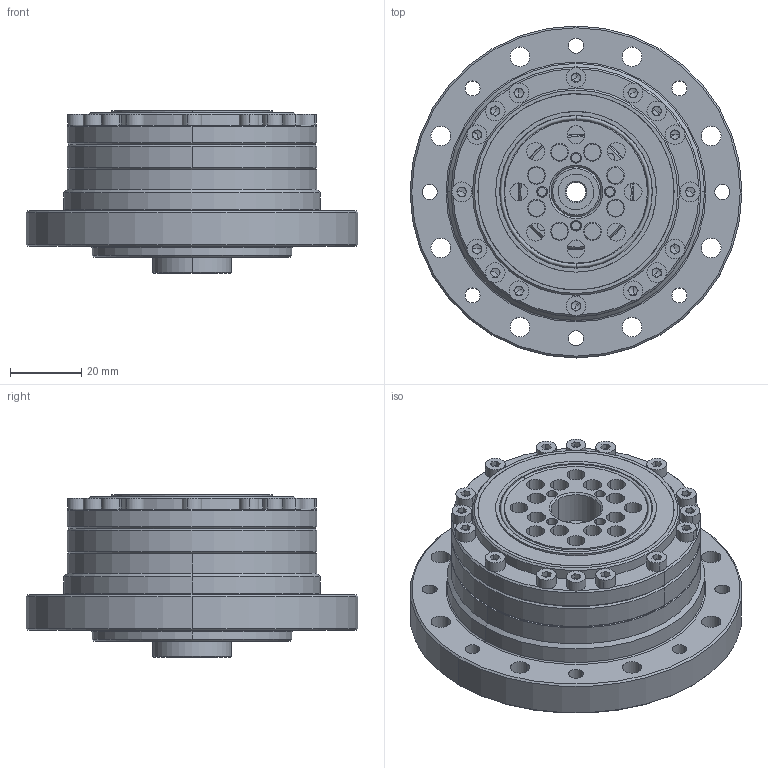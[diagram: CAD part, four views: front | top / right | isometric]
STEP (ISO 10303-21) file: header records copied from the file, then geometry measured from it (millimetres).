
FILE_DESCRIPTION (( 'STEP AP214' ), '1' );
FILE_NAME ('FCG-20-XXX-AJ.STEP', '2023-01-16T03:45:01', ( '微软用户' ), ( '微软中国' ), 'SwSTEP 2.0', 'SolidWorks 2016', '' );
FILE_SCHEMA (( 'AUTOMOTIVE_DESIGN' ));
Length unit declared in the file: millimetre
Products named in the file (1): FCG-20-XXX-AJ
Bounding box: 93 x 93 x 45.5 mm (x, y, z)
Volume: 125215.3 mm3; surface area: 92554.9 mm2
Topology: 68 solids, 68 shells, 1531 faces, 3675 edges, 2251 vertices
Faces by surface type: cylinder 583, plane 536, cone 252, torus 82, sphere 46, bspline 32
Entity records: 64032 total; most frequent: CARTESIAN_POINT 10743, DIRECTION 7878, ORIENTED_EDGE 7000, EDGE_CURVE 3500, AXIS2_PLACEMENT_3D 3073, VERTEX_POINT 2182, EDGE_LOOP 1830, LINE 1732
